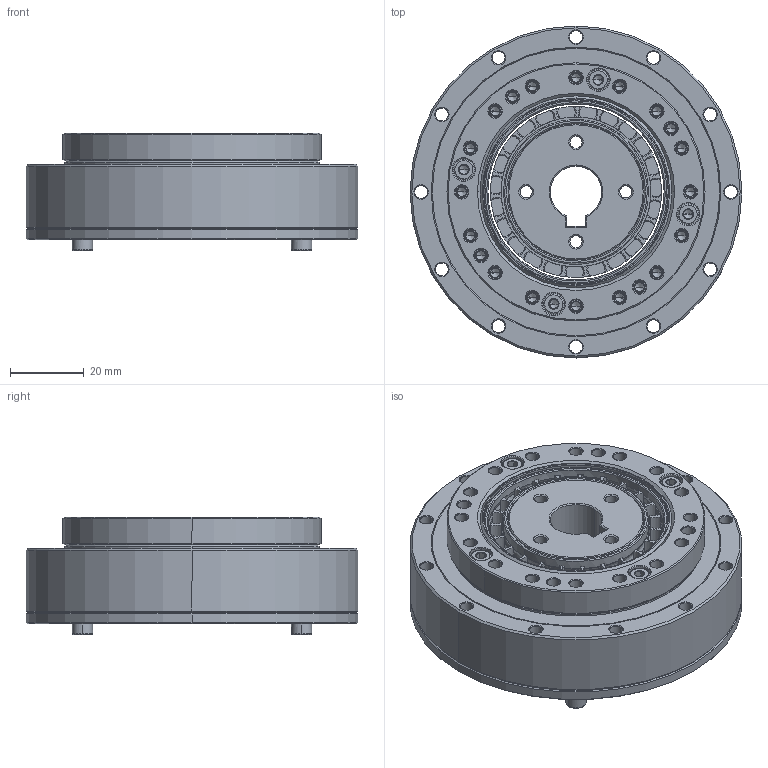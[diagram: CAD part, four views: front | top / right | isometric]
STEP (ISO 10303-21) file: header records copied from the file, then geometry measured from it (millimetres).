
FILE_DESCRIPTION (( 'STEP AP203' ), '1' );
FILE_NAME ('ST-20-XX-U-I-DL-¦Õ14.STEP', '2024-12-12T03:12:04', ( 'Windows User' ), ( 'P R C' ), 'SwSTEP 2.0', 'SolidWorks 2016', '' );
FILE_SCHEMA (( 'CONFIG_CONTROL_DESIGN' ));
Length unit declared in the file: millimetre
Products named in the file (1): ST-20-XX-U-I-DL-耳14
Bounding box: 90 x 90 x 32 mm (x, y, z)
Volume: 93027.7 mm3; surface area: 74676.6 mm2
Topology: 17 solids, 17 shells, 1791 faces, 4395 edges, 2682 vertices
Faces by surface type: plane 643, cone 525, cylinder 361, bspline 262
Entity records: 61982 total; most frequent: CARTESIAN_POINT 20761, ORIENTED_EDGE 8622, DIRECTION 8341, EDGE_CURVE 4311, AXIS2_PLACEMENT_3D 3026, VERTEX_POINT 2682, LINE 2289, VECTOR 2289
